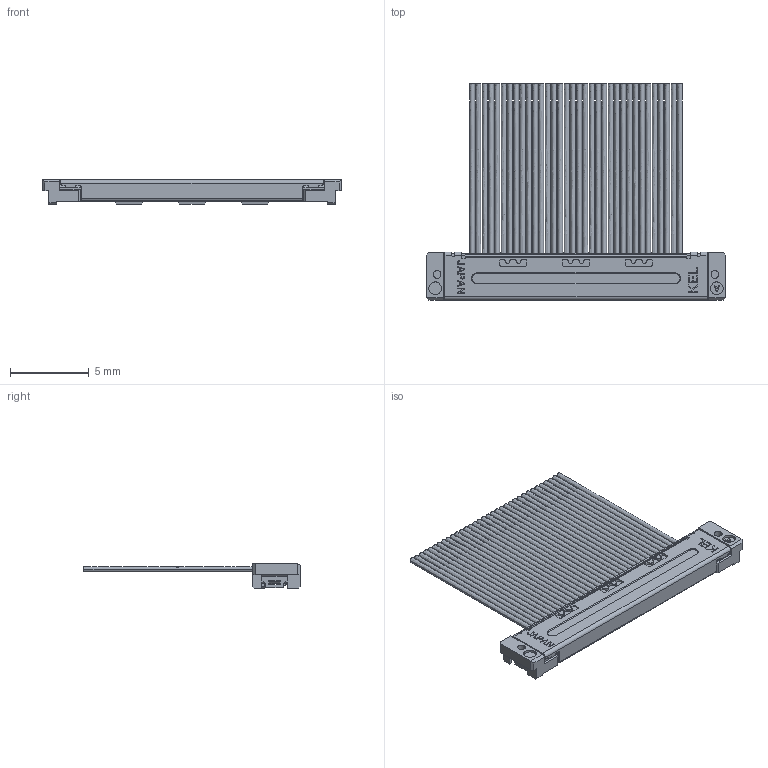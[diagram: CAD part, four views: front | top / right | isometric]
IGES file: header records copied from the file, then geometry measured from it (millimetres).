
Start section: Elysium IGES Interface
Global section: file name: C:\Users\1088\Desktop\P3C581_USLS21-34\P3C581_USLS21-34.igs; native system: CoCreate Modeling 17.0B  09-Oct-2010; preprocessor: CoCreate IGES_3D V2.2; author: Unknown; organization: Unknown; date: 20171106.153632; units: millimetre
Bounding box: 19 x 13.73 x 1.58 mm (x, y, z)
Volume: 77.9 mm3; surface area: 699.1 mm2
Topology: 1 solids, 1 shells, 1537 faces, 4122 edges, 2706 vertices
Faces by surface type: bspline 1537
